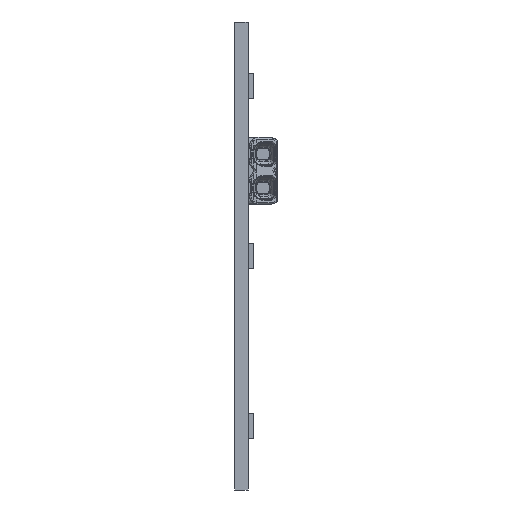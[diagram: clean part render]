
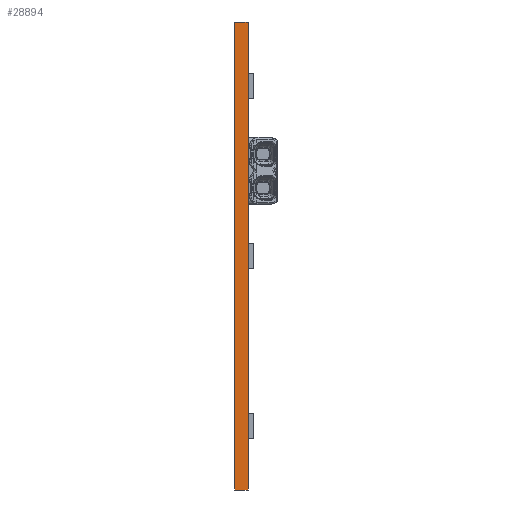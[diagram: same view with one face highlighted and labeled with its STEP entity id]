
A CAD part, left-side view. The second image highlights one B-rep face of the part: STEP entity #28894.
In plain terms, the highlighted planar face has unit normal (-1, 0, 0).
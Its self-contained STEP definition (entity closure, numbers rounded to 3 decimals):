
#2426=ORIENTED_EDGE('',*,*,#8461,.T.);
#2427=ORIENTED_EDGE('',*,*,#8460,.F.);
#2428=ORIENTED_EDGE('',*,*,#7920,.F.);
#2429=ORIENTED_EDGE('',*,*,#8462,.T.);
#7920=EDGE_CURVE('',#11018,#11019,#12980,.T.);
#8460=EDGE_CURVE('',#11019,#11476,#13432,.T.);
#8461=EDGE_CURVE('',#11478,#11476,#13433,.T.);
#8462=EDGE_CURVE('',#11018,#11478,#13434,.T.);
#11018=VERTEX_POINT('',#36681);
#11019=VERTEX_POINT('',#36683);
#11476=VERTEX_POINT('',#37759);
#11478=VERTEX_POINT('',#37765);
#12980=LINE('',#36682,#14936);
#13432=LINE('',#37762,#15388);
#13433=LINE('',#37764,#15389);
#13434=LINE('',#37766,#15390);
#14936=VECTOR('',#31623,1000.);
#15388=VECTOR('',#32413,1000.);
#15389=VECTOR('',#32416,1000.);
#15390=VECTOR('',#32417,1000.);
#17032=EDGE_LOOP('',(#2426,#2427,#2428,#2429));
#18378=FACE_BOUND('',#17032,.T.);
#19600=PLANE('',#30217);
#28894=ADVANCED_FACE('',(#18378),#19600,.F.);
#30217=AXIS2_PLACEMENT_3D('',#37763,#32414,#32415);
#31623=DIRECTION('',(0.,0.,-1.));
#32413=DIRECTION('',(0.,1.,0.));
#32414=DIRECTION('',(1.,0.,0.));
#32415=DIRECTION('',(0.,0.,-1.));
#32416=DIRECTION('',(0.,0.,-1.));
#32417=DIRECTION('',(0.,1.,0.));
#36681=CARTESIAN_POINT('',(-283.,-1.6,27.5));
#36682=CARTESIAN_POINT('',(-283.,-1.6,27.5));
#36683=CARTESIAN_POINT('',(-283.,-1.6,-27.5));
#37759=CARTESIAN_POINT('',(-283.,0.,-27.5));
#37762=CARTESIAN_POINT('',(-283.,-1.6,-27.5));
#37763=CARTESIAN_POINT('',(-283.,-1.6,27.5));
#37764=CARTESIAN_POINT('',(-283.,0.,27.5));
#37765=CARTESIAN_POINT('',(-283.,0.,27.5));
#37766=CARTESIAN_POINT('',(-283.,-1.6,27.5));
